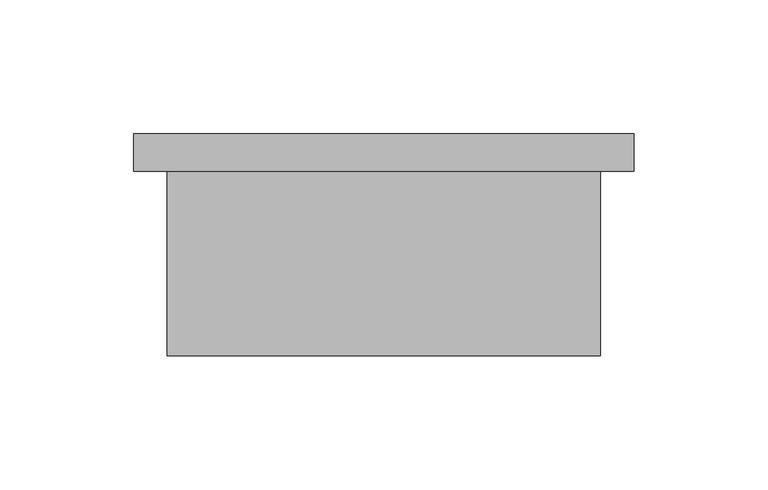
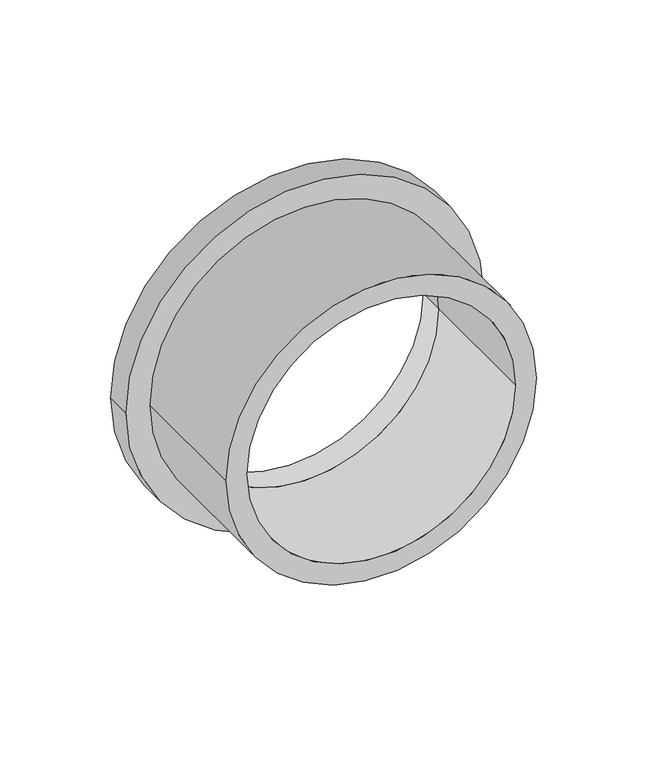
"""IFC4 building model written with IfcOpenShell, lengths in millimetres: pipe fitting geometry, 01051020 : Colarinho."""

from ifc_helpers import new_model, si_unit, point, frame, origin, origin_2d, place, context, project, spatial, circle_curve, trimmed, segment, composite_curve, outline, extrude, source, transform, mapped, element, save


def pipe_fitting_3b314abf(model_context):
    return source(origin(), model_context, "Body", "SweptSolid", [
        extrude(outline(composite_curve([segment(trimmed(circle_curve(origin_2d(), 81.0), [point((0.0, -81.0))], [point((0.0, 81.0))], False, "CARTESIAN"), True, "CONTINUOUS"), segment(trimmed(circle_curve(origin_2d(), 81.0), [point((0.0, 81.0))], [point((0.0, -81.0))], False, "CARTESIAN"), True, "CONTINUOUS")], self_intersect=False), holes=[composite_curve([segment(trimmed(circle_curve(origin_2d(), 70.0), [point((0.0, -70.0))], [point((0.0, 70.0))], True, "CARTESIAN"), True, "CONTINUOUS"), segment(trimmed(circle_curve(origin_2d(), 70.0), [point((0.0, 70.0))], [point((0.0, -70.0))], True, "CARTESIAN"), True, "CONTINUOUS")], self_intersect=False)]), frame((0.0, -69.0, 0.0), z_axis=(0.0, 1.0, 0.0), x_axis=(0.0, 0.0, 1.0)), (0.0, 0.0, 1.0), 69.0),
        extrude(outline(composite_curve([segment(trimmed(circle_curve(origin_2d(), 93.5), [point((0.0, -93.5))], [point((0.0, 93.5))], False, "CARTESIAN"), True, "CONTINUOUS"), segment(trimmed(circle_curve(origin_2d(), 93.5), [point((0.0, 93.5))], [point((0.0, -93.5))], False, "CARTESIAN"), True, "CONTINUOUS")], self_intersect=False), holes=[composite_curve([segment(trimmed(circle_curve(origin_2d(), 70.0), [point((0.0, -70.0))], [point((0.0, 70.0))], True, "CARTESIAN"), True, "CONTINUOUS"), segment(trimmed(circle_curve(origin_2d(), 70.0), [point((0.0, 70.0))], [point((0.0, -70.0))], True, "CARTESIAN"), True, "CONTINUOUS")], self_intersect=False)]), frame((0.0, 0.0, 0.0), z_axis=(0.0, 1.0, 0.0), x_axis=(0.0, 0.0, 1.0)), (0.0, 0.0, 1.0), 14.0),
    ])


if __name__ == "__main__":
    model = new_model("IFC4")
    model_context = context("Model", 3, world=origin())
    ifc_project = project(units=[si_unit("LENGTHUNIT", "METRE", prefix="MILLI")], contexts=[model_context])
    site = spatial("IfcSite", under=ifc_project)
    building = spatial("IfcBuilding", under=site)
    placement = place(None, origin())
    pipe_fitting_shape = pipe_fitting_3b314abf(model_context)
    element("IfcPipeFitting", 1, ObjectType="01051020 : Colarinho", at=placement, inside=building, context=model_context, shape_type="MappedRepresentation", body=[
        mapped(pipe_fitting_shape, transform((0.0, 0.0, 0.0), x_axis=(1.0, 0.0, 0.0), y_axis=(0.0, 1.0, 0.0), z_axis=(0.0, 0.0, 1.0))),
    ])
    save(model, "model.ifc")
